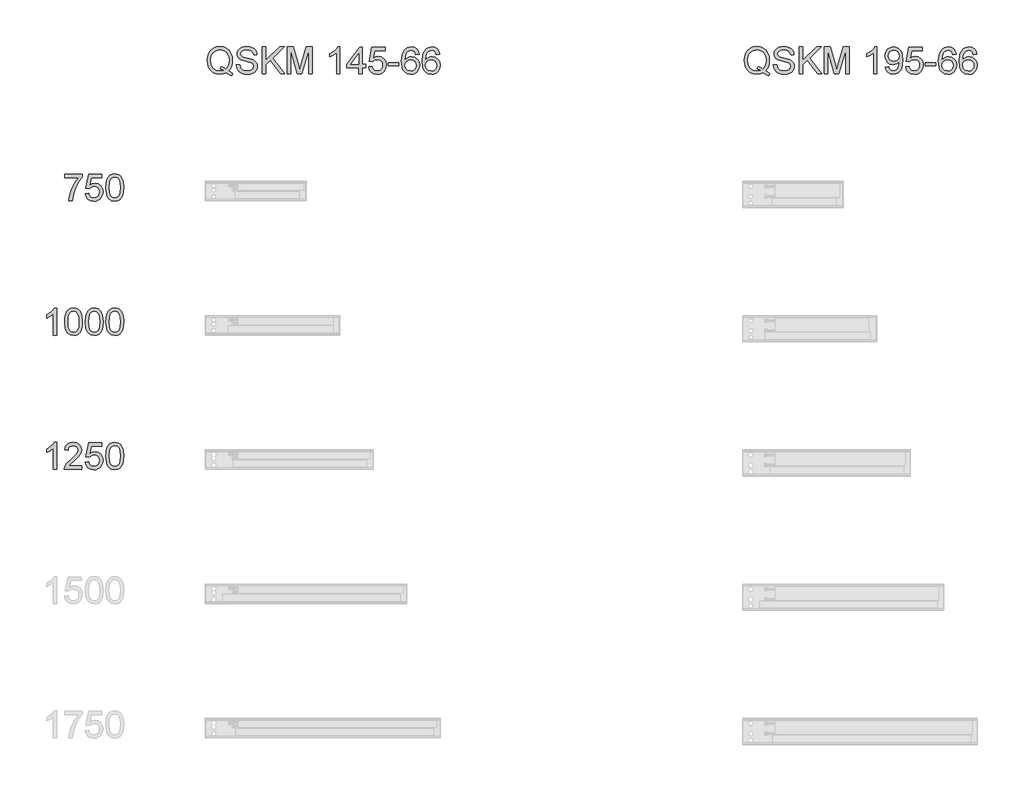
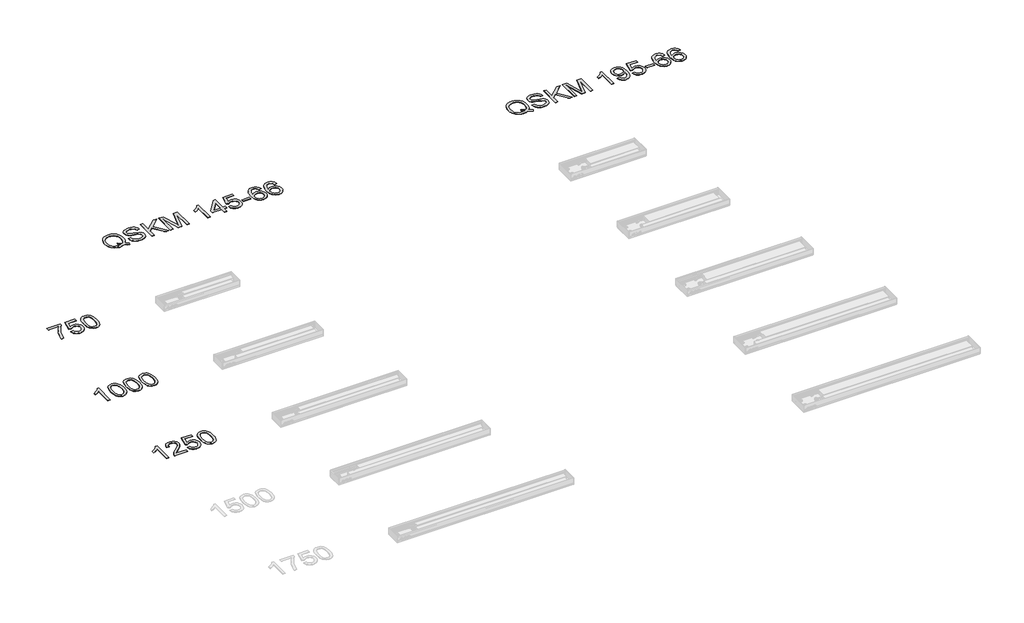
# One storey, part 13 of 17: 5 proxies.
"""IFC4 building model written with IfcOpenShell, lengths in millimetres."""

from ifc_helpers import new_model, si_unit, origin, origin_with_axes, place, context, project, spatial, polyline, outline, extrude, element, save

model = new_model("IFC4")

# Units and contexts
model_context = context("Model", 3, world=origin())
ifc_project = project(units=[si_unit("LENGTHUNIT", "METRE", prefix="MILLI")], contexts=[model_context])

# Site, building, storey
site = spatial("IfcSite", under=ifc_project)
building = spatial("IfcBuilding", under=site)
storey = spatial("IfcBuildingStorey", under=building, Name="Уровень 1", Elevation=0.0)

# Proxies
placement = place(None, origin())
element("IfcBuildingElementProxy", 1, Name="Текст модели 1", ObjectType="Текст модели 1", at=placement, inside=storey, context=model_context, shape_type="SweptSolid", body=[
    extrude(outline(polyline([(1854.9155502, 3515.8415377), (1886.0628925, 3494.8967894), (1879.2938637, 3476.5026897), (1858.5821074, 3486.1044098), (1837.9439275, 3499.9980864), (1814.7060481, 3491.4632242), (1789.1382495, 3488.6182701), (1763.4478235, 3491.8985512), (1740.2344696, 3501.7393946), (1720.7919061, 3517.5215321), (1706.4138515, 3538.6256959), (1697.5295013, 3563.8930576), (1694.5680512, 3592.164789), (1697.5233699, 3620.4610458), (1706.389326, 3646.0962895), (1720.7121984, 3667.5008902), (1740.0382658, 3683.1052182), (1763.1657806, 3692.6333619), (1788.8929948, 3695.8094097), (1814.8225441, 3692.5597855), (1838.0665548, 3682.8109126), (1857.3619655, 3667.212716), (1871.4457145, 3646.4151205), (1880.0541532, 3621.5217722), (1882.9236328, 3593.6363169), (1881.1823247, 3570.4474885), (1875.9584003, 3549.7357322), (1867.2150716, 3531.5255734), (1854.9155502, 3515.8415377)]), holes=[polyline([(1796.054431, 3549.2452229), (1817.1708575, 3541.2621836), (1834.2160566, 3530.16441), (1844.5382122, 3541.8140066), (1851.9111806, 3556.0633025), (1856.3349616, 3572.9122979), (1857.8095552, 3592.3609927), (1855.7248906, 3614.4645692), (1849.4708967, 3633.5883016), (1839.2008576, 3649.2478119), (1825.0680577, 3660.9587221), (1808.0289899, 3668.2611797), (1789.0401476, 3670.6953322), (1761.6697272, 3665.7718448), (1739.4006037, 3651.0013827), (1730.7737709, 3639.9419303), (1724.6117475, 3626.4575223), (1719.6821288, 3592.2138399), (1724.5565652, 3558.7059215), (1730.6496108, 3545.2583017), (1739.1798745, 3534.0149083), (1761.3815529, 3518.8029878), (1788.9910967, 3513.7323476), (1816.0181606, 3518.8826955), (1789.5797079, 3530.0172573), (1796.054431, 3549.2452229)])]), origin_with_axes(), (0.0, 0.0, 1.0), 2.0),
    extrude(outline(polyline([(1911.17697, 3560.821243), (1936.2910475, 3560.821243), (1944.3844514, 3535.68264), (1952.5146435, 3526.7921584), (1964.1519773, 3519.7901378), (1978.3767478, 3515.2467951), (1994.26925, 3513.7323476), (2020.511499, 3518.3186098), (2037.4585962, 3530.9246995), (2043.0258771, 3547.7736949), (2038.8565478, 3563.4454679), (2032.504452, 3569.6442795), (2021.7868232, 3574.8498097), (1985.2193529, 3584.4392671), (1945.8559794, 3596.8246276), (1933.3541229, 3605.2736507), (1924.4942982, 3615.5130329), (1919.2151916, 3627.322045), (1917.4554894, 3640.4799577), (1919.6321245, 3655.1891061), (1926.1620299, 3668.9049732), (1936.8735274, 3680.5300442), (1951.5949385, 3688.9668046), (1969.265537, 3694.0987585), (1988.8245964, 3695.8094097), (2010.0145994, 3694.0190507), (2028.5558519, 3688.6479736), (2043.7861665, 3679.806543), (2055.0433556, 3667.6051234), (2062.1680035, 3652.8040045), (2065.0006949, 3636.1634756), (2039.8866174, 3636.1634756), (2035.2758297, 3651.1485355), (2025.6618469, 3661.9642662), (2010.6399988, 3668.5125657), (1989.8056151, 3670.6953322), (1968.4807221, 3668.5370912), (1953.8512814, 3662.0623681), (1945.3899955, 3652.5342244), (1942.5695669, 3641.2157217), (1944.5683924, 3631.5649507), (1950.5648689, 3623.8026406), (1964.7405885, 3616.8619336), (1991.5714487, 3609.7740738), (2036.0115937, 3597.1679841), (2050.3283347, 3588.0567734), (2060.3163308, 3576.811847), (2066.1840487, 3563.5558325), (2068.1399546, 3548.411357), (2065.8897431, 3532.9296564), (2059.1391085, 3518.3676607), (2048.1639623, 3505.8351474), (2033.240216, 3496.4418938), (2015.293706, 3490.574176), (1995.2502686, 3488.6182701), (1970.6450945, 3490.7274602), (1950.3931907, 3497.0550305), (1934.2615652, 3507.6255065), (1922.0172261, 3522.4634136), (1914.1568142, 3540.5386823), (1911.17697, 3560.821243)])), origin_with_axes(), (0.0, 0.0, 1.0), 2.0),
    extrude(outline(polyline([(2105.8110709, 3491.7575298), (2105.8110709, 3692.6701501), (2130.9251484, 3692.6701501), (2130.9251484, 3594.32303), (2233.9321071, 3692.6701501), (2269.0525749, 3692.6701501), (2182.5757806, 3610.0683794), (2272.1918346, 3491.7575298), (2241.4859507, 3491.7575298), (2164.770292, 3593.0967567), (2130.9251484, 3560.821243), (2130.9251484, 3491.7575298), (2105.8110709, 3491.7575298)])), origin_with_axes(), (0.0, 0.0, 1.0), 2.0),
    extrude(outline(polyline([(2291.0273927, 3491.7575298), (2291.0273927, 3692.6701501), (2334.2412644, 3692.6701501), (2375.345946, 3551.0601074), (2383.6355537, 3521.482395), (2392.6118743, 3553.512654), (2433.0298429, 3692.6701501), (2476.2437146, 3692.6701501), (2476.2437146, 3491.7575298), (2451.129637, 3491.7575298), (2451.129637, 3667.5560725), (2400.6562273, 3491.7575298), (2366.61488, 3491.7575298), (2316.1414703, 3667.5560725), (2316.1414703, 3491.7575298), (2291.0273927, 3491.7575298)])), origin_with_axes(), (0.0, 0.0, 1.0), 2.0),
    extrude(outline(polyline([(2683.4348543, 3491.7575298), (2658.3207767, 3491.7575298), (2658.3207767, 3648.3281069), (2634.5310744, 3631.3810097), (2608.0926217, 3618.7013436), (2608.0926217, 3642.441995), (2644.9053466, 3665.9373917), (2658.375959, 3679.5122374), (2667.2480465, 3692.6701501), (2683.4348543, 3692.6701501), (2683.4348543, 3491.7575298)])), origin_with_axes(), (0.0, 0.0, 1.0), 2.0),
    extrude(outline(polyline([(2824.7015404, 3491.7575298), (2824.7015404, 3538.8464251), (2733.6630093, 3538.8464251), (2733.6630093, 3563.9605027), (2830.9800598, 3689.5308904), (2849.815618, 3689.5308904), (2849.815618, 3563.9605027), (2874.9296955, 3563.9605027), (2874.9296955, 3538.8464251), (2849.815618, 3538.8464251), (2849.815618, 3491.7575298), (2824.7015404, 3491.7575298)]), holes=[polyline([(2824.7015404, 3563.9605027), (2824.7015404, 3641.5590782), (2764.5650969, 3563.9605027), (2824.7015404, 3563.9605027)])]), origin_with_axes(), (0.0, 0.0, 1.0), 2.0),
    extrude(outline(polyline([(2896.9045133, 3545.1249445), (2922.0185909, 3548.2642042), (2926.6293785, 3533.1871738), (2934.6737315, 3522.3898372), (2946.1148616, 3515.89672), (2960.9159805, 3513.7323476), (2978.9176728, 3516.7428486), (2992.4066793, 3525.7743516), (3000.831177, 3539.7845242), (3003.6393429, 3557.7310342), (3001.0089866, 3574.6290805), (2993.1179178, 3587.5540013), (2979.9048228, 3595.7577698), (2961.308388, 3598.4923593), (2939.2599937, 3594.1268263), (2925.1578506, 3582.7960608), (2900.043773, 3585.9353205), (2922.0185909, 3689.5308904), (3019.3356413, 3689.5308904), (3019.3356413, 3664.4168128), (2942.325677, 3664.4168128), (2931.5835227, 3609.0873607), (2949.5239014, 3619.9766678), (2968.3226713, 3623.6064368), (2991.7874113, 3619.1060137), (3011.2667629, 3605.6047445), (3024.381756, 3585.0278783), (3028.7534204, 3559.3006641), (3024.8170831, 3534.1865865), (3013.008071, 3512.702278), (3002.5724851, 3502.1655245), (2990.395591, 3494.639272), (2976.4773889, 3490.1235206), (2960.8178786, 3488.6182701), (2936.1513909, 3492.4871624), (2916.5003609, 3504.0938393), (2903.0297486, 3522.0894003), (2896.9045133, 3545.1249445)])), origin_with_axes(), (0.0, 0.0, 1.0), 2.0),
    extrude(outline(polyline([(3044.4497189, 3551.4034639), (3044.4497189, 3576.5175414), (3122.9312112, 3576.5175414), (3122.9312112, 3551.4034639), (3044.4497189, 3551.4034639)])), origin_with_axes(), (0.0, 0.0, 1.0), 2.0),
    extrude(outline(polyline([(3273.6156764, 3639.3027353), (3248.5015989, 3636.1634756), (3238.9857179, 3657.1082239), (3227.5936388, 3664.9441103), (3213.8225894, 3667.5560725), (3191.1610585, 3661.4737569), (3181.7248854, 3651.8659054), (3174.0177576, 3638.6405477), (3168.8122273, 3619.9337482), (3166.8808469, 3593.8815716), (3176.9546822, 3605.6354014), (3189.027343, 3613.9188776), (3202.424379, 3618.8301023), (3216.4713398, 3620.4671771), (3239.672431, 3615.9912795), (3259.1456513, 3602.5635867), (3272.3526149, 3582.0480341), (3276.7549361, 3556.3085572), (3274.6825342, 3538.325259), (3268.4653285, 3521.6540732), (3258.6183537, 3507.5151419), (3245.6566448, 3497.1286069), (3230.1688128, 3490.7458543), (3212.7434689, 3488.6182701), (3184.2510084, 3494.2591273), (3161.5588207, 3511.1816991), (3152.8997982, 3524.2905609), (3146.7147822, 3541.0537171), (3141.7667693, 3585.5429131), (3147.2604738, 3635.5626017), (3154.1276044, 3654.6403488), (3163.7415872, 3669.7633645), (3174.1618447, 3679.7850832), (3186.2437025, 3686.9434537), (3215.3922193, 3692.6701501), (3237.4283508, 3689.1262202), (3255.0744238, 3678.4944305), (3267.4352589, 3661.6086469), (3273.6156764, 3639.3027353)]), holes=[polyline([(3166.8808469, 3556.7009646), (3172.6933824, 3534.946876), (3188.1444262, 3519.1524757), (3210.7814316, 3513.7323476), (3227.3545155, 3516.5405135), (3240.3836695, 3524.9650112), (3248.8265613, 3538.208763), (3251.6408586, 3555.4746913), (3248.8633495, 3572.0477752), (3240.5308223, 3584.6845217), (3227.2809391, 3592.6859551), (3209.751362, 3595.3530996), (3193.2028036, 3592.6859551), (3179.3643092, 3584.6845217), (3170.0017125, 3572.3543435), (3166.8808469, 3556.7009646)])]), origin_with_axes(), (0.0, 0.0, 1.0), 2.0),
    extrude(outline(polyline([(3427.4394013, 3639.3027353), (3402.3253238, 3636.1634756), (3392.8094428, 3657.1082239), (3381.4173637, 3664.9441103), (3367.6463144, 3667.5560725), (3344.9847835, 3661.4737569), (3335.5486103, 3651.8659054), (3327.8414825, 3638.6405477), (3322.6359523, 3619.9337482), (3320.7045718, 3593.8815716), (3330.7784071, 3605.6354014), (3342.8510679, 3613.9188776), (3356.2481039, 3618.8301023), (3370.2950647, 3620.4671771), (3393.4961559, 3615.9912795), (3412.9693762, 3602.5635867), (3426.1763398, 3582.0480341), (3430.578661, 3556.3085572), (3428.5062591, 3538.325259), (3422.2890534, 3521.6540732), (3412.4420786, 3507.5151419), (3399.4803697, 3497.1286069), (3383.9925377, 3490.7458543), (3366.5671938, 3488.6182701), (3338.0747333, 3494.2591273), (3315.3825456, 3511.1816991), (3306.7235231, 3524.2905609), (3300.5385071, 3541.0537171), (3295.5904942, 3585.5429131), (3301.0841987, 3635.5626017), (3307.9513293, 3654.6403488), (3317.5653121, 3669.7633645), (3327.9855696, 3679.7850832), (3340.0674275, 3686.9434537), (3369.2159442, 3692.6701501), (3391.2520757, 3689.1262202), (3408.8981488, 3678.4944305), (3421.2589838, 3661.6086469), (3427.4394013, 3639.3027353)]), holes=[polyline([(3320.7045718, 3556.7009646), (3326.5171073, 3534.946876), (3341.9681511, 3519.1524757), (3364.6051565, 3513.7323476), (3381.1782404, 3516.5405135), (3394.2073944, 3524.9650112), (3402.6502862, 3538.208763), (3405.4645835, 3555.4746913), (3402.6870744, 3572.0477752), (3394.3545472, 3584.6845217), (3381.104664, 3592.6859551), (3363.575087, 3595.3530996), (3347.0265285, 3592.6859551), (3333.1880341, 3584.6845217), (3323.8254374, 3572.3543435), (3320.7045718, 3556.7009646)])]), origin_with_axes(), (0.0, 0.0, 1.0), 2.0),
])
element("IfcBuildingElementProxy", 2, Name="Текст модели 1", ObjectType="Текст модели 1", at=placement, inside=storey, context=model_context, shape_type="SweptSolid", body=[
    extrude(outline(polyline([(5854.9155502, 3515.8415377), (5886.0628925, 3494.8967894), (5879.2938637, 3476.5026897), (5858.5821074, 3486.1044098), (5837.9439275, 3499.9980864), (5814.7060481, 3491.4632242), (5789.1382495, 3488.6182701), (5763.4478235, 3491.8985512), (5740.2344696, 3501.7393946), (5720.7919061, 3517.5215321), (5706.4138515, 3538.6256959), (5697.5295013, 3563.8930576), (5694.5680512, 3592.164789), (5697.5233699, 3620.4610458), (5706.389326, 3646.0962895), (5720.7121984, 3667.5008902), (5740.0382658, 3683.1052182), (5763.1657806, 3692.6333619), (5788.8929948, 3695.8094097), (5814.8225441, 3692.5597855), (5838.0665548, 3682.8109126), (5857.3619655, 3667.212716), (5871.4457145, 3646.4151205), (5880.0541532, 3621.5217722), (5882.9236328, 3593.6363169), (5881.1823247, 3570.4474885), (5875.9584003, 3549.7357322), (5867.2150716, 3531.5255734), (5854.9155502, 3515.8415377)]), holes=[polyline([(5796.054431, 3549.2452229), (5817.1708575, 3541.2621836), (5834.2160566, 3530.16441), (5844.5382122, 3541.8140066), (5851.9111806, 3556.0633025), (5856.3349616, 3572.9122979), (5857.8095552, 3592.3609927), (5855.7248906, 3614.4645692), (5849.4708967, 3633.5883016), (5839.2008576, 3649.2478119), (5825.0680577, 3660.9587221), (5808.0289899, 3668.2611797), (5789.0401476, 3670.6953322), (5761.6697272, 3665.7718448), (5739.4006037, 3651.0013827), (5730.7737709, 3639.9419303), (5724.6117475, 3626.4575223), (5719.6821288, 3592.2138399), (5724.5565652, 3558.7059215), (5730.6496108, 3545.2583017), (5739.1798745, 3534.0149083), (5761.3815529, 3518.8029878), (5788.9910967, 3513.7323476), (5816.0181606, 3518.8826955), (5789.5797079, 3530.0172573), (5796.054431, 3549.2452229)])]), origin_with_axes(), (0.0, 0.0, 1.0), 2.0),
    extrude(outline(polyline([(5911.17697, 3560.821243), (5936.2910475, 3560.821243), (5944.3844514, 3535.68264), (5952.5146435, 3526.7921584), (5964.1519773, 3519.7901378), (5978.3767478, 3515.2467951), (5994.26925, 3513.7323476), (6020.511499, 3518.3186098), (6037.4585962, 3530.9246995), (6043.0258771, 3547.7736949), (6038.8565478, 3563.4454679), (6032.504452, 3569.6442795), (6021.7868232, 3574.8498097), (5985.2193529, 3584.4392671), (5945.8559794, 3596.8246276), (5933.3541229, 3605.2736507), (5924.4942982, 3615.5130329), (5919.2151916, 3627.322045), (5917.4554894, 3640.4799577), (5919.6321245, 3655.1891061), (5926.1620299, 3668.9049732), (5936.8735274, 3680.5300442), (5951.5949385, 3688.9668046), (5969.265537, 3694.0987585), (5988.8245964, 3695.8094097), (6010.0145994, 3694.0190507), (6028.5558519, 3688.6479736), (6043.7861665, 3679.806543), (6055.0433556, 3667.6051234), (6062.1680035, 3652.8040045), (6065.0006949, 3636.1634756), (6039.8866174, 3636.1634756), (6035.2758297, 3651.1485355), (6025.6618469, 3661.9642662), (6010.6399988, 3668.5125657), (5989.8056151, 3670.6953322), (5968.4807221, 3668.5370912), (5953.8512814, 3662.0623681), (5945.3899955, 3652.5342244), (5942.5695669, 3641.2157217), (5944.5683924, 3631.5649507), (5950.5648689, 3623.8026406), (5964.7405885, 3616.8619336), (5991.5714487, 3609.7740738), (6036.0115937, 3597.1679841), (6050.3283347, 3588.0567734), (6060.3163308, 3576.811847), (6066.1840487, 3563.5558325), (6068.1399546, 3548.411357), (6065.8897431, 3532.9296564), (6059.1391085, 3518.3676607), (6048.1639623, 3505.8351474), (6033.240216, 3496.4418938), (6015.293706, 3490.574176), (5995.2502686, 3488.6182701), (5970.6450945, 3490.7274602), (5950.3931907, 3497.0550305), (5934.2615652, 3507.6255065), (5922.0172261, 3522.4634136), (5914.1568142, 3540.5386823), (5911.17697, 3560.821243)])), origin_with_axes(), (0.0, 0.0, 1.0), 2.0),
    extrude(outline(polyline([(6105.8110709, 3491.7575298), (6105.8110709, 3692.6701501), (6130.9251484, 3692.6701501), (6130.9251484, 3594.32303), (6233.9321071, 3692.6701501), (6269.0525749, 3692.6701501), (6182.5757806, 3610.0683794), (6272.1918346, 3491.7575298), (6241.4859507, 3491.7575298), (6164.770292, 3593.0967567), (6130.9251484, 3560.821243), (6130.9251484, 3491.7575298), (6105.8110709, 3491.7575298)])), origin_with_axes(), (0.0, 0.0, 1.0), 2.0),
    extrude(outline(polyline([(6291.0273927, 3491.7575298), (6291.0273927, 3692.6701501), (6334.2412644, 3692.6701501), (6375.345946, 3551.0601074), (6383.6355537, 3521.482395), (6392.6118743, 3553.512654), (6433.0298429, 3692.6701501), (6476.2437146, 3692.6701501), (6476.2437146, 3491.7575298), (6451.129637, 3491.7575298), (6451.129637, 3667.5560725), (6400.6562273, 3491.7575298), (6366.61488, 3491.7575298), (6316.1414703, 3667.5560725), (6316.1414703, 3491.7575298), (6291.0273927, 3491.7575298)])), origin_with_axes(), (0.0, 0.0, 1.0), 2.0),
    extrude(outline(polyline([(6683.4348543, 3491.7575298), (6658.3207767, 3491.7575298), (6658.3207767, 3648.3281069), (6634.5310744, 3631.3810097), (6608.0926217, 3618.7013436), (6608.0926217, 3642.441995), (6644.9053466, 3665.9373917), (6658.375959, 3679.5122374), (6667.2480465, 3692.6701501), (6683.4348543, 3692.6701501), (6683.4348543, 3491.7575298)])), origin_with_axes(), (0.0, 0.0, 1.0), 2.0),
    extrude(outline(polyline([(6746.2200481, 3541.9856848), (6771.3341256, 3545.1249445), (6775.6260823, 3530.8695172), (6782.6158402, 3521.1635639), (6792.1317211, 3515.5901517), (6804.0020468, 3513.7323476), (6824.3336584, 3518.5148135), (6838.1169705, 3531.2925815), (6846.3330017, 3553.1202465), (6849.9627708, 3582.2565006), (6849.815618, 3587.1615938), (6841.1152088, 3576.5420669), (6829.729261, 3568.129832), (6816.4793778, 3562.6483902), (6802.1871623, 3560.821243), (6779.2865081, 3565.2848779), (6760.2240894, 3578.6757825), (6747.3666137, 3599.3630133), (6743.0807884, 3625.7156269), (6747.5750801, 3652.9388946), (6761.0579552, 3674.2760503), (6781.3098591, 3688.0716251), (6806.1112369, 3692.6701501), (6824.8425618, 3690.0459252), (6841.8938923, 3682.1732505), (6856.155451, 3669.4445334), (6866.5174605, 3652.2521815), (6872.8266368, 3628.4870046), (6874.9296955, 3596.0398127), (6872.8327681, 3561.6367147), (6866.541986, 3535.0449779), (6856.1125314, 3515.0628541), (6841.5995867, 3500.4885958), (6823.6285513, 3491.5858515), (6802.8248244, 3488.6182701), (6781.3527787, 3492.1192804), (6764.2217404, 3502.6223113), (6752.2410501, 3519.4651754), (6746.2200481, 3541.9856848)]), holes=[polyline([(6849.815618, 3626.3042381), (6847.1055539, 3643.3249118), (6838.9753618, 3656.4215108), (6826.3570094, 3664.7724321), (6810.1824643, 3667.5560725), (6793.4070454, 3664.5578343), (6779.9670898, 3655.5631195), (6771.1379219, 3641.7982015), (6768.194866, 3624.4893536), (6770.9785064, 3608.9708648), (6779.3294277, 3596.6529493), (6792.4382894, 3588.6147277), (6809.4957513, 3585.9353205), (6825.5415376, 3588.6147277), (6838.460327, 3596.6529493), (6846.9767952, 3609.4245859), (6849.815618, 3626.3042381)])]), origin_with_axes(), (0.0, 0.0, 1.0), 2.0),
    extrude(outline(polyline([(6896.9045133, 3545.1249445), (6922.0185909, 3548.2642042), (6926.6293785, 3533.1871738), (6934.6737315, 3522.3898372), (6946.1148616, 3515.89672), (6960.9159805, 3513.7323476), (6978.9176728, 3516.7428486), (6992.4066793, 3525.7743516), (7000.831177, 3539.7845242), (7003.6393429, 3557.7310342), (7001.0089866, 3574.6290805), (6993.1179178, 3587.5540013), (6979.9048228, 3595.7577698), (6961.308388, 3598.4923593), (6939.2599937, 3594.1268263), (6925.1578506, 3582.7960608), (6900.043773, 3585.9353205), (6922.0185909, 3689.5308904), (7019.3356413, 3689.5308904), (7019.3356413, 3664.4168128), (6942.325677, 3664.4168128), (6931.5835227, 3609.0873607), (6949.5239014, 3619.9766678), (6968.3226713, 3623.6064368), (6991.7874113, 3619.1060137), (7011.2667629, 3605.6047445), (7024.381756, 3585.0278783), (7028.7534204, 3559.3006641), (7024.8170831, 3534.1865865), (7013.008071, 3512.702278), (7002.5724851, 3502.1655245), (6990.395591, 3494.639272), (6976.4773889, 3490.1235206), (6960.8178786, 3488.6182701), (6936.1513909, 3492.4871624), (6916.5003609, 3504.0938393), (6903.0297486, 3522.0894003), (6896.9045133, 3545.1249445)])), origin_with_axes(), (0.0, 0.0, 1.0), 2.0),
    extrude(outline(polyline([(7044.4497189, 3551.4034639), (7044.4497189, 3576.5175414), (7122.9312112, 3576.5175414), (7122.9312112, 3551.4034639), (7044.4497189, 3551.4034639)])), origin_with_axes(), (0.0, 0.0, 1.0), 2.0),
    extrude(outline(polyline([(7273.6156764, 3639.3027353), (7248.5015989, 3636.1634756), (7238.9857179, 3657.1082239), (7227.5936388, 3664.9441103), (7213.8225894, 3667.5560725), (7191.1610585, 3661.4737569), (7181.7248854, 3651.8659054), (7174.0177576, 3638.6405477), (7168.8122273, 3619.9337482), (7166.8808469, 3593.8815716), (7176.9546822, 3605.6354014), (7189.027343, 3613.9188776), (7202.424379, 3618.8301023), (7216.4713398, 3620.4671771), (7239.672431, 3615.9912795), (7259.1456513, 3602.5635867), (7272.3526149, 3582.0480341), (7276.7549361, 3556.3085572), (7274.6825342, 3538.325259), (7268.4653285, 3521.6540732), (7258.6183537, 3507.5151419), (7245.6566448, 3497.1286069), (7230.1688128, 3490.7458543), (7212.7434689, 3488.6182701), (7184.2510084, 3494.2591273), (7161.5588207, 3511.1816991), (7152.8997982, 3524.2905609), (7146.7147822, 3541.0537171), (7141.7667693, 3585.5429131), (7147.2604738, 3635.5626017), (7154.1276044, 3654.6403488), (7163.7415872, 3669.7633645), (7174.1618447, 3679.7850832), (7186.2437025, 3686.9434537), (7215.3922193, 3692.6701501), (7237.4283508, 3689.1262202), (7255.0744238, 3678.4944305), (7267.4352589, 3661.6086469), (7273.6156764, 3639.3027353)]), holes=[polyline([(7166.8808469, 3556.7009646), (7172.6933824, 3534.946876), (7188.1444262, 3519.1524757), (7210.7814316, 3513.7323476), (7227.3545155, 3516.5405135), (7240.3836695, 3524.9650112), (7248.8265613, 3538.208763), (7251.6408586, 3555.4746913), (7248.8633495, 3572.0477752), (7240.5308223, 3584.6845217), (7227.2809391, 3592.6859551), (7209.751362, 3595.3530996), (7193.2028036, 3592.6859551), (7179.3643092, 3584.6845217), (7170.0017125, 3572.3543435), (7166.8808469, 3556.7009646)])]), origin_with_axes(), (0.0, 0.0, 1.0), 2.0),
    extrude(outline(polyline([(7427.4394013, 3639.3027353), (7402.3253238, 3636.1634756), (7392.8094428, 3657.1082239), (7381.4173637, 3664.9441103), (7367.6463144, 3667.5560725), (7344.9847835, 3661.4737569), (7335.5486103, 3651.8659054), (7327.8414825, 3638.6405477), (7322.6359523, 3619.9337482), (7320.7045718, 3593.8815716), (7330.7784071, 3605.6354014), (7342.8510679, 3613.9188776), (7356.2481039, 3618.8301023), (7370.2950647, 3620.4671771), (7393.4961559, 3615.9912795), (7412.9693762, 3602.5635867), (7426.1763398, 3582.0480341), (7430.578661, 3556.3085572), (7428.5062591, 3538.325259), (7422.2890534, 3521.6540732), (7412.4420786, 3507.5151419), (7399.4803697, 3497.1286069), (7383.9925377, 3490.7458543), (7366.5671938, 3488.6182701), (7338.0747333, 3494.2591273), (7315.3825456, 3511.1816991), (7306.7235231, 3524.2905609), (7300.5385071, 3541.0537171), (7295.5904942, 3585.5429131), (7301.0841987, 3635.5626017), (7307.9513293, 3654.6403488), (7317.5653121, 3669.7633645), (7327.9855696, 3679.7850832), (7340.0674275, 3686.9434537), (7369.2159442, 3692.6701501), (7391.2520757, 3689.1262202), (7408.8981488, 3678.4944305), (7421.2589838, 3661.6086469), (7427.4394013, 3639.3027353)]), holes=[polyline([(7320.7045718, 3556.7009646), (7326.5171073, 3534.946876), (7341.9681511, 3519.1524757), (7364.6051565, 3513.7323476), (7381.1782404, 3516.5405135), (7394.2073944, 3524.9650112), (7402.6502862, 3538.208763), (7405.4645835, 3555.4746913), (7402.6870744, 3572.0477752), (7394.3545472, 3584.6845217), (7381.104664, 3592.6859551), (7363.575087, 3595.3530996), (7347.0265285, 3592.6859551), (7333.1880341, 3584.6845217), (7323.8254374, 3572.3543435), (7320.7045718, 3556.7009646)])]), origin_with_axes(), (0.0, 0.0, 1.0), 2.0),
])
element("IfcBuildingElementProxy", 3, Name="Текст модели 1", ObjectType="Текст модели 1", at=placement, inside=storey, context=model_context, shape_type="SweptSolid", body=[
    extrude(outline(polyline([(633.0968765, 2719.4168128), (633.0968765, 2744.5308904), (764.9457836, 2744.5308904), (764.9457836, 2724.2238042), (746.153145, 2700.4402332), (727.5444474, 2670.1942019), (711.130779, 2636.2448251), (698.9232282, 2601.3512178), (689.6035509, 2546.7575298), (664.4894734, 2546.7575298), (667.2056688, 2572.6441595), (674.4713382, 2603.411357), (686.0902779, 2636.0240959), (701.8662841, 2667.4473496), (720.2849093, 2695.853971), (739.831706, 2719.4168128), (633.0968765, 2719.4168128)])), origin_with_axes(), (0.0, 0.0, 1.0), 2.0),
    extrude(outline(polyline([(786.9206014, 2600.1249445), (812.0346789, 2603.2642042), (816.6454666, 2588.1871738), (824.6898196, 2577.3898372), (836.1309496, 2570.89672), (850.9320686, 2568.7323476), (868.9337609, 2571.7428486), (882.4227673, 2580.7743516), (890.847265, 2594.7845242), (893.6554309, 2612.7310342), (891.0250747, 2629.6290805), (883.1340059, 2642.5540013), (869.9209109, 2650.7577698), (851.324476, 2653.4923593), (829.2760818, 2649.1268263), (815.1739386, 2637.7960608), (790.0598611, 2640.9353205), (812.0346789, 2744.5308904), (909.3517294, 2744.5308904), (909.3517294, 2719.4168128), (832.3417651, 2719.4168128), (821.5996108, 2664.0873607), (839.5399894, 2674.9766678), (858.3387594, 2678.6064368), (881.8034993, 2674.1060137), (901.282851, 2660.6047445), (914.3978441, 2640.0278783), (918.7695085, 2614.3006641), (914.8331711, 2589.1865865), (903.0241591, 2567.702278), (892.5885731, 2557.1655245), (880.4116791, 2549.639272), (866.493477, 2545.1235206), (850.8339667, 2543.6182701), (826.1674789, 2547.4871624), (806.516449, 2559.0938393), (793.0458366, 2577.0894003), (786.9206014, 2600.1249445)])), origin_with_axes(), (0.0, 0.0, 1.0), 2.0),
    extrude(outline(polyline([(940.7443263, 2645.5951591), (942.5898677, 2677.7541769), (948.1264917, 2703.4016833), (957.2990161, 2722.9300859), (970.0522586, 2736.7317921), (986.4781897, 2744.9355606), (1006.6687799, 2747.6701501), (1022.1443491, 2746.0514693), (1036.0012376, 2741.1954269), (1047.5895204, 2733.2920954), (1056.2592728, 2722.531547), (1068.0314966, 2692.8066818), (1072.5932334, 2645.5951591), (1070.7660861, 2613.6200824), (1065.2846444, 2588.0338896), (1056.1673023, 2568.4870929), (1043.4324539, 2554.6302044), (1026.9697346, 2546.3712537), (1006.6687799, 2543.6182701), (980.5736837, 2548.400736), (960.7571069, 2562.7481338), (952.0015154, 2577.8772809), (945.7475214, 2596.7281674), (940.7443263, 2645.5951591)]), holes=[polyline([(965.8584039, 2645.6442101), (968.8014598, 2606.1398151), (977.6306277, 2583.2759491), (990.7762777, 2572.368248), (1006.6687799, 2568.7323476), (1022.561282, 2572.3805107), (1035.706932, 2583.3250001), (1044.5360999, 2606.2011288), (1047.4791558, 2645.6442101), (1044.6342018, 2684.2595568), (1036.0993395, 2707.3012324), (1022.978215, 2718.7423625), (1006.3744743, 2722.5560725), (990.6536503, 2719.1960836), (978.0230352, 2709.116117), (968.8995617, 2684.6397015), (965.8584039, 2645.6442101)])]), origin_with_axes(), (0.0, 0.0, 1.0), 2.0),
])
element("IfcBuildingElementProxy", 4, Name="Текст модели 1", ObjectType="Текст модели 1", at=placement, inside=storey, context=model_context, shape_type="SweptSolid", body=[
    extrude(outline(polyline([(573.4509423, 1546.7575298), (548.3368648, 1546.7575298), (548.3368648, 1703.3281069), (524.5471624, 1686.3810097), (498.1087097, 1673.7013436), (498.1087097, 1697.441995), (534.9214347, 1720.9373917), (548.3920471, 1734.5122374), (557.2641345, 1747.6701501), (573.4509423, 1747.6701501), (573.4509423, 1546.7575298)])), origin_with_axes(), (0.0, 0.0, 1.0), 2.0),
    extrude(outline(polyline([(633.0968765, 1645.5951591), (634.9424178, 1677.7541769), (640.4790419, 1703.4016833), (649.6515663, 1722.9300859), (662.4048088, 1736.7317921), (678.8307398, 1744.9355606), (699.02133, 1747.6701501), (714.4968993, 1746.0514693), (728.3537878, 1741.1954269), (739.9420706, 1733.2920954), (748.611823, 1722.531547), (760.3840468, 1692.8066818), (764.9457836, 1645.5951591), (763.1186363, 1613.6200824), (757.6371946, 1588.0338896), (748.5198525, 1568.4870929), (735.7850041, 1554.6302044), (719.3222848, 1546.3712537), (699.02133, 1543.6182701), (672.9262338, 1548.400736), (653.109657, 1562.7481338), (644.3540655, 1577.8772809), (638.1000716, 1596.7281674), (633.0968765, 1645.5951591)]), holes=[polyline([(658.210954, 1645.6442101), (661.15401, 1606.1398151), (669.9831779, 1583.2759491), (683.1288278, 1572.368248), (699.02133, 1568.7323476), (714.9138322, 1572.3805107), (728.0594822, 1583.3250001), (736.8886501, 1606.2011288), (739.831706, 1645.6442101), (736.9867519, 1684.2595568), (728.4518896, 1707.3012324), (715.3307651, 1718.7423625), (698.7270244, 1722.5560725), (683.0062005, 1719.1960836), (670.3755853, 1709.116117), (661.2521118, 1684.6397015), (658.210954, 1645.6442101)])]), origin_with_axes(), (0.0, 0.0, 1.0), 2.0),
    extrude(outline(polyline([(786.9206014, 1645.5951591), (788.7661427, 1677.7541769), (794.3027668, 1703.4016833), (803.4752912, 1722.9300859), (816.2285337, 1736.7317921), (832.6544648, 1744.9355606), (852.8450549, 1747.6701501), (868.3206242, 1746.0514693), (882.1775127, 1741.1954269), (893.7657955, 1733.2920954), (902.4355479, 1722.531547), (914.2077717, 1692.8066818), (918.7695085, 1645.5951591), (916.9423612, 1613.6200824), (911.4609195, 1588.0338896), (902.3435774, 1568.4870929), (889.608729, 1554.6302044), (873.1460097, 1546.3712537), (852.8450549, 1543.6182701), (826.7499587, 1548.400736), (806.9333819, 1562.7481338), (798.1777905, 1577.8772809), (791.9237965, 1596.7281674), (786.9206014, 1645.5951591)]), holes=[polyline([(812.0346789, 1645.6442101), (814.9777349, 1606.1398151), (823.8069028, 1583.2759491), (836.9525527, 1572.368248), (852.8450549, 1568.7323476), (868.7375571, 1572.3805107), (881.8832071, 1583.3250001), (890.712375, 1606.2011288), (893.6554309, 1645.6442101), (890.8104768, 1684.2595568), (882.2756145, 1707.3012324), (869.1544901, 1718.7423625), (852.5507493, 1722.5560725), (836.8299254, 1719.1960836), (824.1993102, 1709.116117), (815.0758368, 1684.6397015), (812.0346789, 1645.6442101)])]), origin_with_axes(), (0.0, 0.0, 1.0), 2.0),
    extrude(outline(polyline([(940.7443263, 1645.5951591), (942.5898677, 1677.7541769), (948.1264917, 1703.4016833), (957.2990161, 1722.9300859), (970.0522586, 1736.7317921), (986.4781897, 1744.9355606), (1006.6687799, 1747.6701501), (1022.1443491, 1746.0514693), (1036.0012376, 1741.1954269), (1047.5895204, 1733.2920954), (1056.2592728, 1722.531547), (1068.0314966, 1692.8066818), (1072.5932334, 1645.5951591), (1070.7660861, 1613.6200824), (1065.2846444, 1588.0338896), (1056.1673023, 1568.4870929), (1043.4324539, 1554.6302044), (1026.9697346, 1546.3712537), (1006.6687799, 1543.6182701), (980.5736837, 1548.400736), (960.7571069, 1562.7481338), (952.0015154, 1577.8772809), (945.7475214, 1596.7281674), (940.7443263, 1645.5951591)]), holes=[polyline([(965.8584039, 1645.6442101), (968.8014598, 1606.1398151), (977.6306277, 1583.2759491), (990.7762777, 1572.368248), (1006.6687799, 1568.7323476), (1022.561282, 1572.3805107), (1035.706932, 1583.3250001), (1044.5360999, 1606.2011288), (1047.4791558, 1645.6442101), (1044.6342018, 1684.2595568), (1036.0993395, 1707.3012324), (1022.978215, 1718.7423625), (1006.3744743, 1722.5560725), (990.6536503, 1719.1960836), (978.0230352, 1709.116117), (968.8995617, 1684.6397015), (965.8584039, 1645.6442101)])]), origin_with_axes(), (0.0, 0.0, 1.0), 2.0),
])
element("IfcBuildingElementProxy", 5, Name="Текст модели 1", ObjectType="Текст модели 1", at=placement, inside=storey, context=model_context, shape_type="SweptSolid", body=[
    extrude(outline(polyline([(573.4509423, 546.7575298), (548.3368648, 546.7575298), (548.3368648, 703.3281069), (524.5471624, 686.3810097), (498.1087097, 673.7013436), (498.1087097, 697.441995), (534.9214347, 720.9373917), (548.3920471, 734.5122374), (557.2641345, 747.6701501), (573.4509423, 747.6701501), (573.4509423, 546.7575298)])), origin_with_axes(), (0.0, 0.0, 1.0), 2.0),
    extrude(outline(polyline([(761.8065239, 571.8716073), (761.8065239, 546.7575298), (629.9576168, 546.7575298), (632.6554181, 564.072509), (647.9102582, 590.7316909), (679.351906, 619.8434195), (722.7129305, 661.683865), (730.8431226, 676.1048393), (733.5531866, 690.133406), (730.9964068, 702.7088389), (723.3260672, 713.1628189), (711.5354492, 720.2077591), (696.6178343, 722.5560725), (680.9521927, 720.2629414), (668.78143, 713.3835481), (660.9271494, 702.4574528), (658.210954, 688.0242159), (633.0968765, 691.1634756), (639.1853235, 715.45595), (652.3493676, 733.2001249), (671.9022956, 744.0526438), (697.1573946, 747.6701501), (722.5964345, 743.6479736), (742.1125744, 731.5814441), (754.5285917, 713.5552264), (758.6672642, 691.6539849), (754.2036293, 667.8397571), (739.3657222, 643.2161889), (703.386863, 608.8069596), (674.4958637, 584.6493753), (663.1650982, 571.8716073), (761.8065239, 571.8716073)])), origin_with_axes(), (0.0, 0.0, 1.0), 2.0),
    extrude(outline(polyline([(786.9206014, 600.1249445), (812.0346789, 603.2642042), (816.6454666, 588.1871738), (824.6898196, 577.3898372), (836.1309496, 570.89672), (850.9320686, 568.7323476), (868.9337609, 571.7428486), (882.4227673, 580.7743516), (890.847265, 594.7845242), (893.6554309, 612.7310342), (891.0250747, 629.6290805), (883.1340059, 642.5540013), (869.9209109, 650.7577698), (851.324476, 653.4923593), (829.2760818, 649.1268263), (815.1739386, 637.7960608), (790.0598611, 640.9353205), (812.0346789, 744.5308904), (909.3517294, 744.5308904), (909.3517294, 719.4168128), (832.3417651, 719.4168128), (821.5996108, 664.0873607), (839.5399894, 674.9766678), (858.3387594, 678.6064368), (881.8034993, 674.1060137), (901.282851, 660.6047445), (914.3978441, 640.0278783), (918.7695085, 614.3006641), (914.8331711, 589.1865865), (903.0241591, 567.702278), (892.5885731, 557.1655245), (880.4116791, 549.639272), (866.493477, 545.1235206), (850.8339667, 543.6182701), (826.1674789, 547.4871624), (806.516449, 559.0938393), (793.0458366, 577.0894003), (786.9206014, 600.1249445)])), origin_with_axes(), (0.0, 0.0, 1.0), 2.0),
    extrude(outline(polyline([(940.7443263, 645.5951591), (942.5898677, 677.7541769), (948.1264917, 703.4016833), (957.2990161, 722.9300859), (970.0522586, 736.7317921), (986.4781897, 744.9355606), (1006.6687799, 747.6701501), (1022.1443491, 746.0514693), (1036.0012376, 741.1954269), (1047.5895204, 733.2920954), (1056.2592728, 722.531547), (1068.0314966, 692.8066818), (1072.5932334, 645.5951591), (1070.7660861, 613.6200824), (1065.2846444, 588.0338896), (1056.1673023, 568.4870929), (1043.4324539, 554.6302044), (1026.9697346, 546.3712537), (1006.6687799, 543.6182701), (980.5736837, 548.400736), (960.7571069, 562.7481338), (952.0015154, 577.8772809), (945.7475214, 596.7281674), (940.7443263, 645.5951591)]), holes=[polyline([(965.8584039, 645.6442101), (968.8014598, 606.1398151), (977.6306277, 583.2759491), (990.7762777, 572.368248), (1006.6687799, 568.7323476), (1022.561282, 572.3805107), (1035.706932, 583.3250001), (1044.5360999, 606.2011288), (1047.4791558, 645.6442101), (1044.6342018, 684.2595568), (1036.0993395, 707.3012324), (1022.978215, 718.7423625), (1006.3744743, 722.5560725), (990.6536503, 719.1960836), (978.0230352, 709.116117), (968.8995617, 684.6397015), (965.8584039, 645.6442101)])]), origin_with_axes(), (0.0, 0.0, 1.0), 2.0),
])

save(model, "model.ifc")
